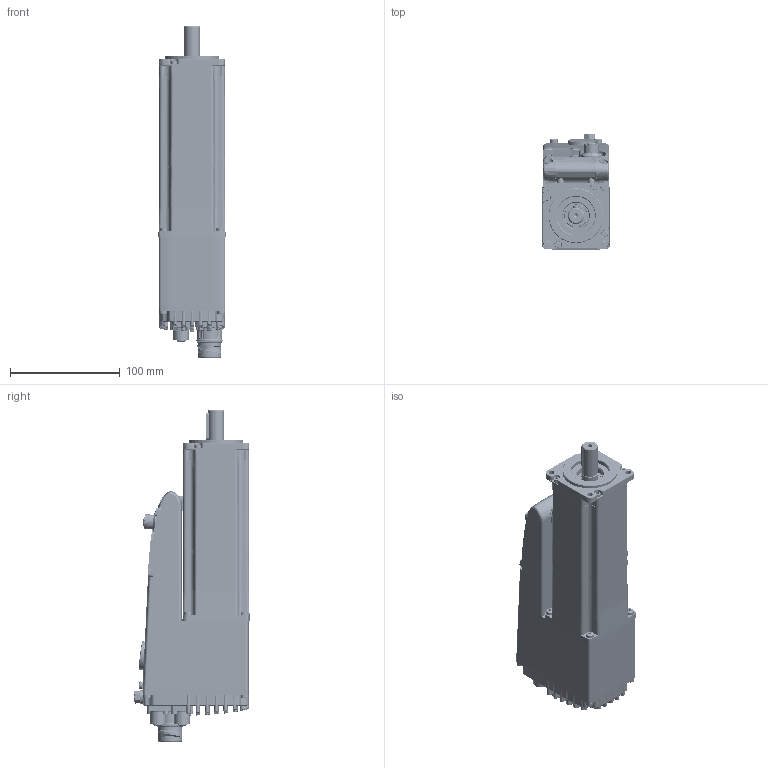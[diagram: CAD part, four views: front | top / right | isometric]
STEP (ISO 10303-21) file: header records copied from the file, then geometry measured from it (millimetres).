
FILE_DESCRIPTION(/* description */ ('Unknown'),/* implementation_level */ '2;1');
FILE_NAME(/* name */ 'DUET60 1,3 A5 1 E 0 (Q0C005)',/* time_stamp */ '2020-11-04T15:29:42+01:00',/* author */ ('Unknown'),/* organization */ ('Unknown'),/* preprocessor_version */ 'ST-DEVELOPER v16.7',/* originating_system */ 'DEX',/* authorisation */ $);
FILE_SCHEMA (('AUTOMOTIVE_DESIGN {1 0 10303 214 3 1 1}'));
Products named in the file (57): DUET60 1,3 A5 1 E 0 (Q0C005); 003251021030; 005123000690; 005123000690_0; 005123000690_1; 005123000690_2; 005123000690_3; 005123000690_4; 005123000690_5; 005123000690_6; 005755000060; 005751000100; 005123000100; 005123000100_0; 005123000100_1; 005123000100_2; 005123000100_3; 005123000100_4; 005123000100_5; 005911000198; 005113000400; 003108002506; 005911000182; 005008000510; 005008000740-oa0; 005008000740-oa1; 005007000200; 005911000200; 003155002056; 005008000744-oa2; 007803003640; 007055000370; 005113000100; 005711000954; 005911003643; MD031601.1.0; 005911000495; 003003199488; 003120003045; 052400000001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
Assembly tree (97 placements, depth 4):
  DUET60 1,3 A5 1 E 0 (Q0C005)
    003251021030
    005123000690
    005123000690_0
    005123000690_1
    005123000690_2
    005123000690_3
    005123000690_4
    005123000690_5
    005123000690_6
    005755000060
    005751000100
    005123000100
    005123000100_0
    005123000100_1
    005123000100_2
    005123000100_3
    005123000100_4
    005123000100_5
    005911000198  x4
    005113000400
    003108002506
    005911000182
    005008000510
    005008000740-oa0
    005008000740-oa1
    005007000200
    005911000200  x4
    003155002056
    005008000744-oa2
    007803003640  x4
    007055000370  x4
    005113000100
    005711000954
    005911003643
    MD031601.1.0
    005911000495  x4
    003003199488
    003120003045
    052400000001
      LC431503.0.0
        J_4302729  x2
        J_7601000000
        V_VTCTX3X10(8.8)  x11
        J_7084943121
        MD031604.0.0
        V_RP6
      MD031607.0.0
      MD031608.0.0
      V_VTCTX40X12A  x12
      V_VTCTXK30X8  x5
      MD031609.0.0
      V_V027400610
      169692
      MD081003.2.0
      MD141520.0.0
      CONEC-43-01063
Bounding box: 61.32 x 105.22 x 302.8 mm (x, y, z)
Volume: 450772.8 mm3; surface area: 286093.8 mm2
Topology: 96 solids, 97 shells, 4772 faces, 11925 edges, 7562 vertices
Faces by surface type: plane 2071, cylinder 1241, bspline 564, cone 422, torus 395, sphere 79
Full cylindrical faces by diameter (mm): 0.8 x8, 0.9 x8, 1.1 x8, 1.2 x4, 1.3 x8, 1.4 x8, 1.5 x8, 1.7 x2, 2.2 x5, 2.4 x15, 2.459 x15, 2.5 x25, 2.9 x4, 3 x38, 3.2 x26, 3.242 x1, 3.3 x1, 3.4 x8, 3.5 x18, 4 x14, 4.134 x1, 4.2 x2, 4.5 x6, 5 x7, 5.5 x31, 5.6 x5, 5.65 x4, 6 x22, 6.4 x1, 7 x12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
Entity records: 159442 total; most frequent: CARTESIAN_POINT 48484, ORIENTED_EDGE 18514, DIRECTION 18214, EDGE_CURVE 9257, AXIS2_PLACEMENT_3D 7065, VERTEX_POINT 6213, FACE_BOUND 5084, EDGE_LOOP 5031
